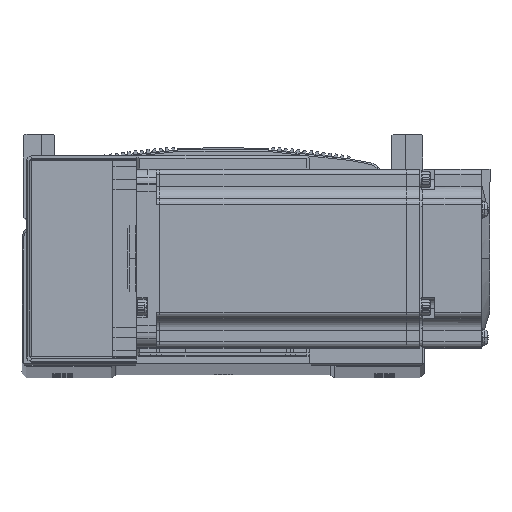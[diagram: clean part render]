
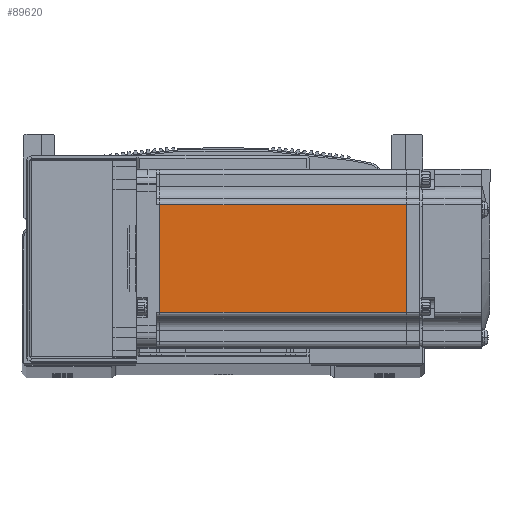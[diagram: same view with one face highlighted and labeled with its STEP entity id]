
A CAD part, top view. The second image highlights one B-rep face of the part: STEP entity #89620.
In plain terms, the highlighted planar face has unit normal (0, 0, 1) as drawn and (0, 0, -1) by its records, which use the part's own axes.
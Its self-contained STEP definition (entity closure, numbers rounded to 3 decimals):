
#3062 = LINE ( 'NONE', #20763, #3176 ) ;
#3176 = VECTOR ( 'NONE', #20732, 1000. ) ;
#3425 = LINE ( 'NONE', #20765, #3450 ) ;
#3450 = VECTOR ( 'NONE', #20733, 1000. ) ;
#4035 = LINE ( 'NONE', #20787, #4331 ) ;
#4331 = VECTOR ( 'NONE', #20803, 1000. ) ;
#16891 = AXIS2_PLACEMENT_3D ( 'NONE', #50552, #50524, #50512 ) ;
#18834 = EDGE_LOOP ( 'NONE', ( #72756, #72754, #72769, #72905 ) ) ;
#20732 = DIRECTION ( 'NONE',  ( 0., 1., 0. ) ) ;
#20733 = DIRECTION ( 'NONE',  ( 1., 0., 0. ) ) ;
#20763 = CARTESIAN_POINT ( 'NONE',  ( -90.45, 25., -30. ) ) ;
#20765 = CARTESIAN_POINT ( 'NONE',  ( -6.5, 18., -30. ) ) ;
#20786 = CARTESIAN_POINT ( 'NONE',  ( -6.5, -18., -30. ) ) ;
#20787 = CARTESIAN_POINT ( 'NONE',  ( -7.75, 25., -30. ) ) ;
#20799 = DIRECTION ( 'NONE',  ( -1., 0., 0. ) ) ;
#20803 = DIRECTION ( 'NONE',  ( 0., -1., 0. ) ) ;
#21067 = LINE ( 'NONE', #20786, #21122 ) ;
#21122 = VECTOR ( 'NONE', #20799, 1000. ) ;
#46846 = CARTESIAN_POINT ( 'NONE',  ( -90.45, 18., -30. ) ) ;
#46873 = CARTESIAN_POINT ( 'NONE',  ( -7.75, 18., -30. ) ) ;
#46984 = CARTESIAN_POINT ( 'NONE',  ( -7.75, -18., -30. ) ) ;
#47033 = CARTESIAN_POINT ( 'NONE',  ( -90.45, -18., -30. ) ) ;
#48294 = FACE_OUTER_BOUND ( 'NONE', #18834, .T. ) ;
#50499 = PLANE ( 'NONE',  #16891 ) ;
#50512 = DIRECTION ( 'NONE',  ( -1., 0., 0. ) ) ;
#50524 = DIRECTION ( 'NONE',  ( 0., 0., -1. ) ) ;
#50552 = CARTESIAN_POINT ( 'NONE',  ( -6.5, 25., -30. ) ) ;
#72754 = ORIENTED_EDGE ( 'NONE', *, *, #79979, .T. ) ;
#72756 = ORIENTED_EDGE ( 'NONE', *, *, #79975, .T. ) ;
#72769 = ORIENTED_EDGE ( 'NONE', *, *, #79955, .T. ) ;
#72905 = ORIENTED_EDGE ( 'NONE', *, *, #79957, .T. ) ;
#79955 = EDGE_CURVE ( 'NONE', #88422, #88362, #3062, .T. ) ;
#79957 = EDGE_CURVE ( 'NONE', #88362, #88372, #3425, .T. ) ;
#79975 = EDGE_CURVE ( 'NONE', #88372, #88421, #4035, .T. ) ;
#79979 = EDGE_CURVE ( 'NONE', #88421, #88422, #21067, .T. ) ;
#88362 = VERTEX_POINT ( 'NONE', #46846 ) ;
#88372 = VERTEX_POINT ( 'NONE', #46873 ) ;
#88421 = VERTEX_POINT ( 'NONE', #46984 ) ;
#88422 = VERTEX_POINT ( 'NONE', #47033 ) ;
#89620 = ADVANCED_FACE ( 'NONE', ( #48294 ), #50499, .T. ) ;
